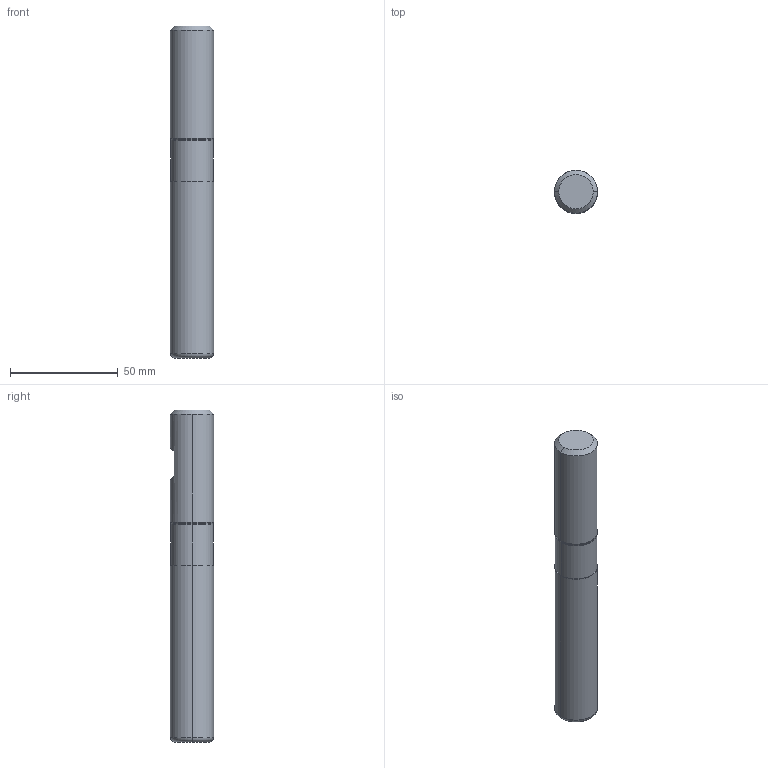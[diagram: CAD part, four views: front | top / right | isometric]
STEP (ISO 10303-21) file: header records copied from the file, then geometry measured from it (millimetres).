
FILE_DESCRIPTION (( 'STEP AP214' ), '1' );
FILE_NAME ('2.410.200.10_3D-model.step', '2022-02-15T20:04:00', ( '' ), ( '' ), 'SwSTEP 2.0', 'SolidWorks 2020', '' );
FILE_SCHEMA (( 'AUTOMOTIVE_DESIGN' ));
Length unit declared in the file: millimetre
Products named in the file (3): NOCUT-3D^Baugr37; 2.410.200.10_3D-model; CUT-3D^Baugr37
Assembly tree (2 placements, depth 2):
  2.410.200.10_3D-model
    CUT-3D^Baugr37
    NOCUT-3D^Baugr37
Bounding box: 20 x 20 x 154 mm (x, y, z)
Volume: 47735.5 mm3; surface area: 10756.4 mm2
Topology: 2 solids, 2 shells, 21 faces, 38 edges, 22 vertices
Faces by surface type: plane 7, cylinder 6, torus 4, cone 4
Entity records: 636 total; most frequent: DIRECTION 116, CARTESIAN_POINT 95, ORIENTED_EDGE 76, AXIS2_PLACEMENT_3D 51, EDGE_CURVE 38, VERTEX_POINT 22, CIRCLE 22, EDGE_LOOP 22
